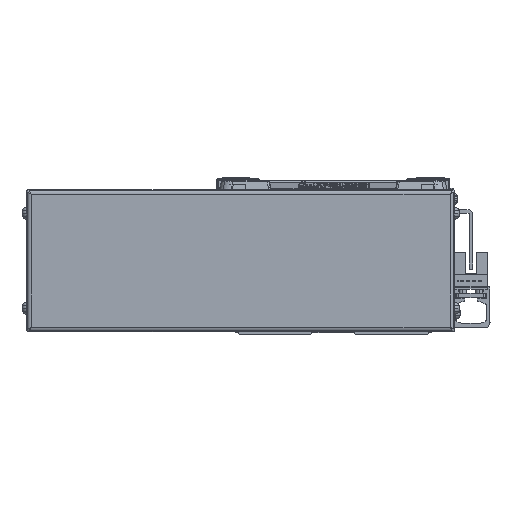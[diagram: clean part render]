
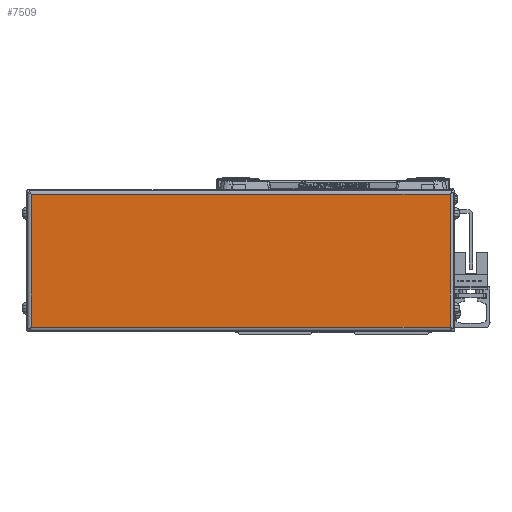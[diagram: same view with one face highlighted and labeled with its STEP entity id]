
A CAD part, left-side view. The second image highlights one B-rep face of the part: STEP entity #7509.
In plain terms, the highlighted planar face has unit normal (-1, 0, 0).
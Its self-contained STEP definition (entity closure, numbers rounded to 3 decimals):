
#7509=ADVANCED_FACE('',(#15132),#15133,.F.);
#15132=FACE_OUTER_BOUND('',#23537,.T.);
#15133=PLANE('',#23538);
#23537=EDGE_LOOP('',(#45028,#45029,#45030,#45031));
#23538=AXIS2_PLACEMENT_3D('',#45032,#45033,#45034);
#45028=ORIENTED_EDGE('',*,*,#53008,.T.);
#45029=ORIENTED_EDGE('',*,*,#53276,.T.);
#45030=ORIENTED_EDGE('',*,*,#51630,.T.);
#45031=ORIENTED_EDGE('',*,*,#51141,.T.);
#45032=CARTESIAN_POINT('',(-616.,39.,0.));
#45033=DIRECTION('',(1.0,0.,0.));
#45034=DIRECTION('',(0.,0.,1.0));
#51141=EDGE_CURVE('',#63115,#63113,#63116,.T.);
#51630=EDGE_CURVE('',#54165,#63115,#63762,.T.);
#53008=EDGE_CURVE('',#63113,#65331,#65483,.T.);
#53276=EDGE_CURVE('',#65331,#54165,#65791,.T.);
#54165=VERTEX_POINT('',#66762);
#63113=VERTEX_POINT('',#79085);
#63115=VERTEX_POINT('',#79087);
#63116=LINE('',#79088,#79089);
#63762=LINE('',#79958,#79959);
#65331=VERTEX_POINT('',#82181);
#65483=LINE('',#82382,#82383);
#65791=LINE('',#82799,#82800);
#66762=CARTESIAN_POINT('',(-616.0,127.2,-28.));
#79085=CARTESIAN_POINT('',(-616.,-49.2,28.));
#79087=CARTESIAN_POINT('',(-616.,-49.2,-28.));
#79088=CARTESIAN_POINT('',(-616.,-49.2,0.));
#79089=VECTOR('',#91355,10.0);
#79958=CARTESIAN_POINT('',(-616.0,39.,-28.));
#79959=VECTOR('',#91961,10.0);
#82181=CARTESIAN_POINT('',(-616.0,127.2,28.));
#82382=CARTESIAN_POINT('',(-616.,39.,28.));
#82383=VECTOR('',#93528,10.0);
#82799=CARTESIAN_POINT('',(-616.0,127.2,0.));
#82800=VECTOR('',#93766,10.0);
#91355=DIRECTION('',(0.,0.,1.0));
#91961=DIRECTION('',(0.,-1.0,0.));
#93528=DIRECTION('',(0.,1.0,0.));
#93766=DIRECTION('',(0.,0.,-1.0));
